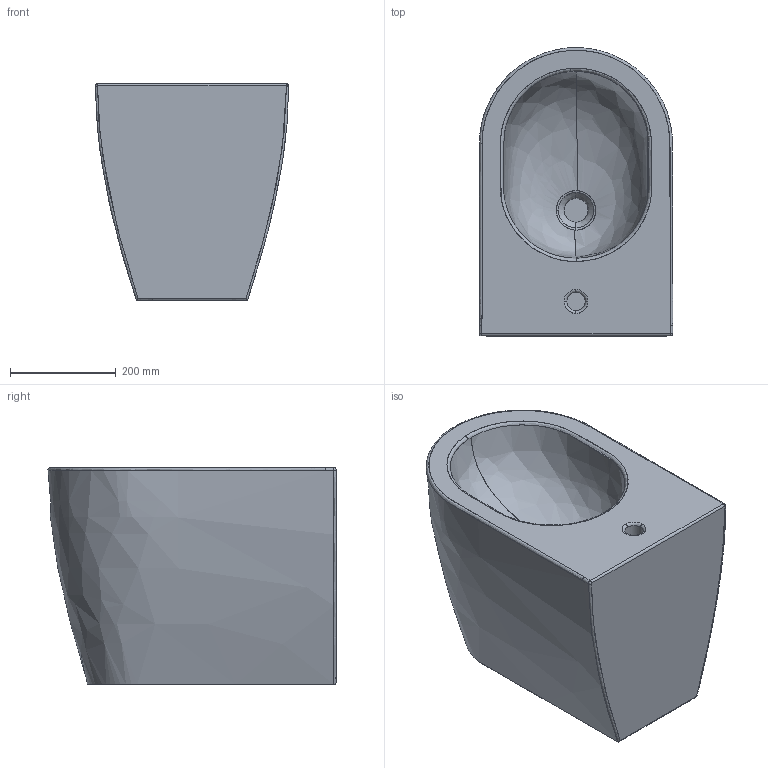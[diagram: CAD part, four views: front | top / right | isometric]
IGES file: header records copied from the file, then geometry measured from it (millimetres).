
Global section: file name: C:\Users\Massimiliano\Desktop\moon\MOON bidet terra art.5523\MOON bidet terra art.5523.igs; native system: Rhinoceros ( Mar 28 2013 ); preprocessor: Trout Lake IGES 012 Mar 28 2013; date: 171127.102742; units: millimetre
Bounding box: 365.47 x 544.86 x 410 mm (x, y, z)
Surface area: 1007348.8 mm2 (no closed solid volume)
Topology: 0 solids, 0 shells, 38 faces, 336 edges, 335 vertices
Faces by surface type: bspline 38
